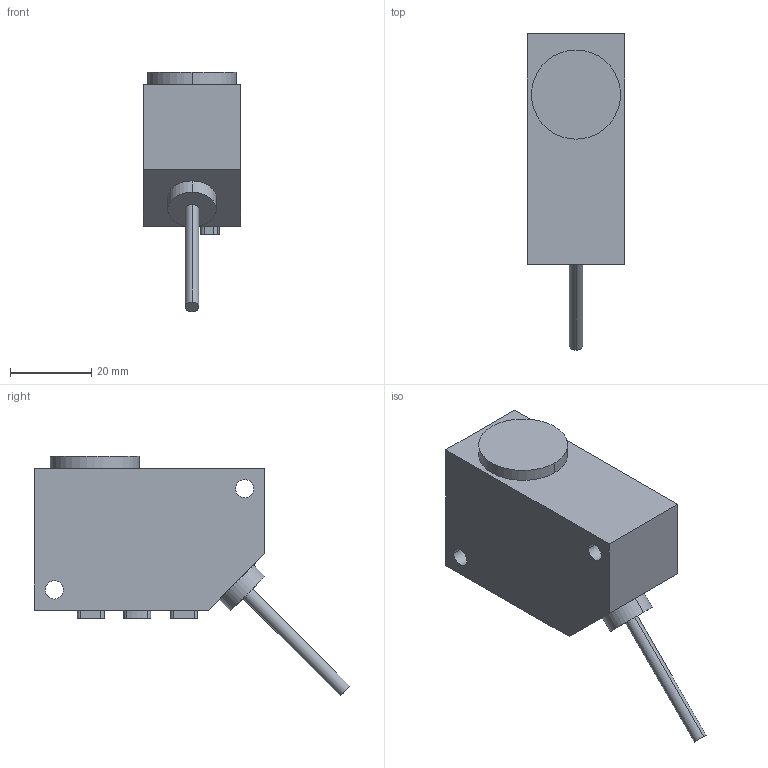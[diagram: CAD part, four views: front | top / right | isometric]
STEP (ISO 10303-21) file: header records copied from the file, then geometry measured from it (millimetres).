
FILE_DESCRIPTION (( 'STEP AP203' ), '1' );
FILE_NAME ('LX-101.STEP', '2005-09-08T01:49:53', ( '' ), ( '' ), 'SwSTEP 2.0', 'SolidWorks 2004073', '' );
FILE_SCHEMA (( 'CONFIG_CONTROL_DESIGN' ));
Length unit declared in the file: millimetre
Products named in the file (1): LX-101
Bounding box: 24 x 78 x 59.14 mm (x, y, z)
Volume: 46826.5 mm3; surface area: 9482.1 mm2
Topology: 1 solids, 1 shells, 91 faces, 225 edges, 150 vertices
Faces by surface type: plane 63, cylinder 28
Entity records: 2780 total; most frequent: CARTESIAN_POINT 467, DIRECTION 465, ORIENTED_EDGE 450, EDGE_CURVE 225, VECTOR 169, LINE 169, VERTEX_POINT 150, AXIS2_PLACEMENT_3D 148
